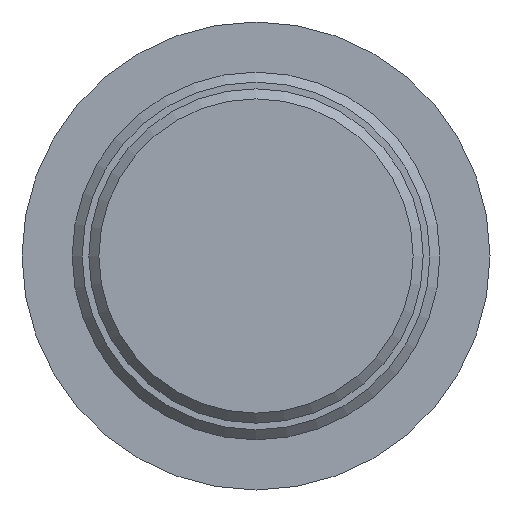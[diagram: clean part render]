
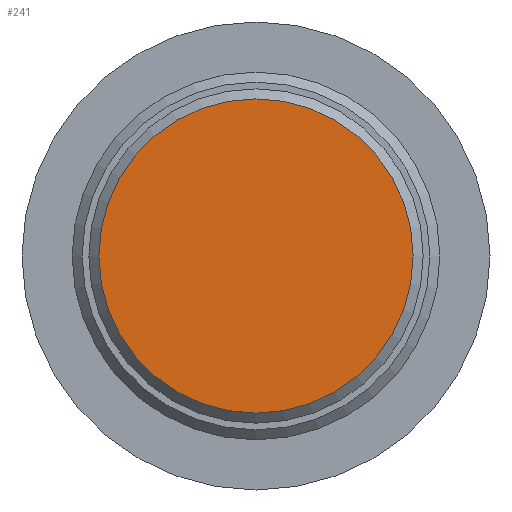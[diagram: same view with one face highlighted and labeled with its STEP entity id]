
A CAD part, front view. The second image highlights one B-rep face of the part: STEP entity #241.
In plain terms, the highlighted planar face has unit normal (0, -1, 0).
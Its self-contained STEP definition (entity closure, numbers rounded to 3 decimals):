
#198=CARTESIAN_POINT('',(-4.7,0.,0.));
#199=VERTEX_POINT('',#198);
#200=CARTESIAN_POINT('',(0.0,0.,0.0));
#201=DIRECTION('',(0.0,1.0,0.0));
#202=DIRECTION('',(1.0,0.0,0.0));
#203=AXIS2_PLACEMENT_3D('',#200,#201,#202);
#204=CIRCLE('',#203,4.7);
#205=EDGE_CURVE('',#199,#199,#204,.T.);
#233=CARTESIAN_POINT('',(-2.5,0.,0.0));
#234=DIRECTION('',(0.0,-1.0,0.0));
#235=DIRECTION('',(0.0,0.0,-1.0));
#236=AXIS2_PLACEMENT_3D('',#233,#234,#235);
#237=PLANE('',#236);
#238=ORIENTED_EDGE('',*,*,#205,.F.);
#239=EDGE_LOOP('',(#238));
#240=FACE_OUTER_BOUND('',#239,.T.);
#241=ADVANCED_FACE('',(#240),#237,.T.);
